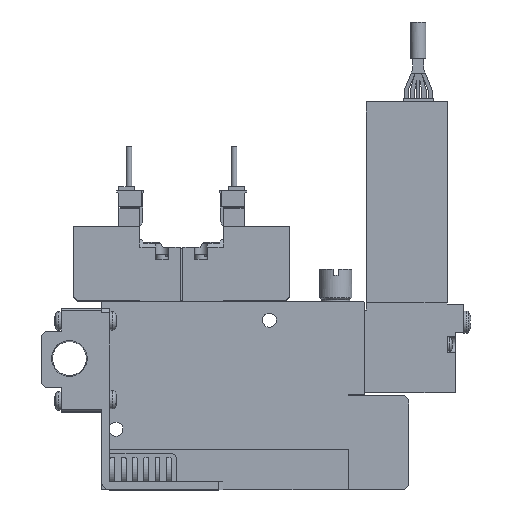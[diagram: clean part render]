
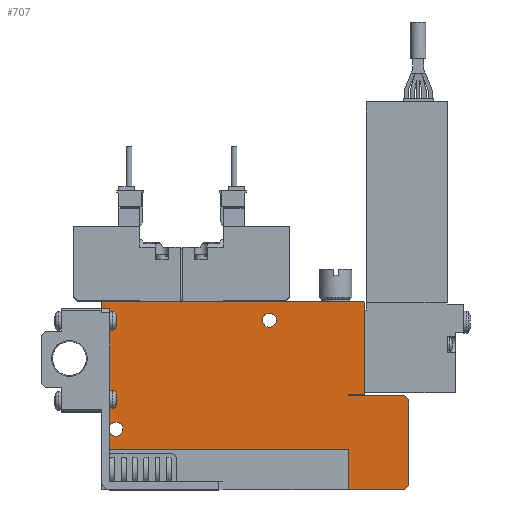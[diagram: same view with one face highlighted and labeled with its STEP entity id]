
A CAD part, top view. The second image highlights one B-rep face of the part: STEP entity #707.
In plain terms, the highlighted planar face has unit normal (0, 0, 1).
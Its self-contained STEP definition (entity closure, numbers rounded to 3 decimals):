
#707=ADVANCED_FACE('',(#1755,#1756,#1757),#1758,.F.);
#1755=FACE_OUTER_BOUND('',#3083,.T.);
#1756=FACE_BOUND('',#3084,.T.);
#1757=FACE_BOUND('',#3085,.T.);
#1758=PLANE('',#3086);
#3083=EDGE_LOOP('',(#6785,#6786,#6787,#6788,#6789,#6790,#6791,#6792,#6793,#6794,#6795,#6796,#6797,#6798));
#3084=EDGE_LOOP('',(#6799));
#3085=EDGE_LOOP('',(#6800));
#3086=AXIS2_PLACEMENT_3D('',#6801,#6802,#6803);
#6785=ORIENTED_EDGE('',*,*,#9646,.T.);
#6786=ORIENTED_EDGE('',*,*,#9631,.F.);
#6787=ORIENTED_EDGE('',*,*,#9647,.F.);
#6788=ORIENTED_EDGE('',*,*,#9582,.T.);
#6789=ORIENTED_EDGE('',*,*,#9648,.T.);
#6790=ORIENTED_EDGE('',*,*,#9649,.T.);
#6791=ORIENTED_EDGE('',*,*,#9650,.T.);
#6792=ORIENTED_EDGE('',*,*,#9651,.T.);
#6793=ORIENTED_EDGE('',*,*,#9527,.T.);
#6794=ORIENTED_EDGE('',*,*,#9652,.T.);
#6795=ORIENTED_EDGE('',*,*,#9653,.T.);
#6796=ORIENTED_EDGE('',*,*,#9591,.T.);
#6797=ORIENTED_EDGE('',*,*,#9563,.T.);
#6798=ORIENTED_EDGE('',*,*,#9654,.T.);
#6799=ORIENTED_EDGE('',*,*,#9525,.F.);
#6800=ORIENTED_EDGE('',*,*,#9655,.F.);
#6801=CARTESIAN_POINT('',(0.0,0.0,5.0));
#6802=DIRECTION('',(0.0,0.0,-1.0));
#6803=DIRECTION('',(0.0,-1.0,0.0));
#9525=EDGE_CURVE('',#11792,#11792,#11793,.T.);
#9527=EDGE_CURVE('',#11796,#11794,#11797,.T.);
#9563=EDGE_CURVE('',#11862,#11860,#11863,.T.);
#9582=EDGE_CURVE('',#11893,#11895,#11897,.T.);
#9591=EDGE_CURVE('',#11911,#11862,#11912,.T.);
#9631=EDGE_CURVE('',#11976,#11977,#11978,.T.);
#9646=EDGE_CURVE('',#12002,#11977,#12003,.T.);
#9647=EDGE_CURVE('',#11893,#11976,#12004,.T.);
#9648=EDGE_CURVE('',#11895,#12005,#12006,.T.);
#9649=EDGE_CURVE('',#12005,#12007,#12008,.T.);
#9650=EDGE_CURVE('',#12007,#12009,#12010,.T.);
#9651=EDGE_CURVE('',#12009,#11796,#12011,.T.);
#9652=EDGE_CURVE('',#11794,#12012,#12013,.T.);
#9653=EDGE_CURVE('',#12012,#11911,#12014,.T.);
#9654=EDGE_CURVE('',#11860,#12002,#12015,.T.);
#9655=EDGE_CURVE('',#12016,#12016,#12017,.T.);
#11792=VERTEX_POINT('',#15482);
#11793=CIRCLE('',#15483,1.75);
#11794=VERTEX_POINT('',#15484);
#11796=VERTEX_POINT('',#15487);
#11797=LINE('',#15488,#15489);
#11860=VERTEX_POINT('',#15619);
#11862=VERTEX_POINT('',#15622);
#11863=LINE('',#15623,#15624);
#11893=VERTEX_POINT('',#15683);
#11895=VERTEX_POINT('',#15686);
#11897=LINE('',#15689,#15690);
#11911=VERTEX_POINT('',#15710);
#11912=LINE('',#15711,#15712);
#11976=VERTEX_POINT('',#15805);
#11977=VERTEX_POINT('',#15806);
#11978=LINE('',#15807,#15808);
#12002=VERTEX_POINT('',#15843);
#12003=LINE('',#15844,#15845);
#12004=LINE('',#15846,#15847);
#12005=VERTEX_POINT('',#15848);
#12006=LINE('',#15849,#15850);
#12007=VERTEX_POINT('',#15851);
#12008=LINE('',#15852,#15853);
#12009=VERTEX_POINT('',#15854);
#12010=LINE('',#15855,#15856);
#12011=LINE('',#15857,#15858);
#12012=VERTEX_POINT('',#15859);
#12013=LINE('',#15860,#15861);
#12014=LINE('',#15862,#15863);
#12015=LINE('',#15864,#15865);
#12016=VERTEX_POINT('',#15866);
#12017=CIRCLE('',#15867,1.75);
#15482=CARTESIAN_POINT('',(5.25,15.0,5.0));
#15483=AXIS2_PLACEMENT_3D('',#18618,#18619,#18620);
#15484=CARTESIAN_POINT('',(61.0,23.5,5.0));
#15487=CARTESIAN_POINT('',(61.0,23.25,5.0));
#15488=CARTESIAN_POINT('',(61.0,23.25,5.0));
#15489=VECTOR('',#18622,1.0);
#15619=CARTESIAN_POINT('',(0.2,46.6,5.0));
#15622=CARTESIAN_POINT('',(64.8,46.6,5.0));
#15623=CARTESIAN_POINT('',(64.8,46.6,5.0));
#15624=VECTOR('',#18671,1.0);
#15683=CARTESIAN_POINT('',(61.1,0.0,5.0));
#15686=CARTESIAN_POINT('',(75.0,0.0,5.0));
#15689=CARTESIAN_POINT('',(0.0,0.0,5.0));
#15690=VECTOR('',#18696,1.0);
#15710=CARTESIAN_POINT('',(65.0,46.4,5.0));
#15711=CARTESIAN_POINT('',(65.0,46.4,5.0));
#15712=VECTOR('',#18709,1.0);
#15805=CARTESIAN_POINT('',(61.1,10.1,5.0));
#15806=CARTESIAN_POINT('',(0.0,10.1,5.0));
#15807=CARTESIAN_POINT('',(61.1,10.1,5.0));
#15808=VECTOR('',#18769,1.0);
#15843=CARTESIAN_POINT('',(0.0,46.4,5.0));
#15844=CARTESIAN_POINT('',(0.0,46.4,5.0));
#15845=VECTOR('',#18790,1.0);
#15846=CARTESIAN_POINT('',(61.1,0.0,5.0));
#15847=VECTOR('',#18791,1.0);
#15848=CARTESIAN_POINT('',(76.0,1.0,5.0));
#15849=CARTESIAN_POINT('',(75.0,0.0,5.0));
#15850=VECTOR('',#18792,1.0);
#15851=CARTESIAN_POINT('',(76.0,22.25,5.0));
#15852=CARTESIAN_POINT('',(76.0,1.0,5.0));
#15853=VECTOR('',#18793,1.0);
#15854=CARTESIAN_POINT('',(75.0,23.25,5.0));
#15855=CARTESIAN_POINT('',(76.0,22.25,5.0));
#15856=VECTOR('',#18794,1.0);
#15857=CARTESIAN_POINT('',(75.0,23.25,5.0));
#15858=VECTOR('',#18795,1.0);
#15859=CARTESIAN_POINT('',(65.0,23.5,5.0));
#15860=CARTESIAN_POINT('',(61.0,23.5,5.0));
#15861=VECTOR('',#18796,1.0);
#15862=CARTESIAN_POINT('',(65.0,23.5,5.0));
#15863=VECTOR('',#18797,1.0);
#15864=CARTESIAN_POINT('',(0.2,46.6,5.0));
#15865=VECTOR('',#18798,1.0);
#15866=CARTESIAN_POINT('',(43.25,42.0,5.0));
#15867=AXIS2_PLACEMENT_3D('',#18799,#18800,#18801);
#18618=CARTESIAN_POINT('',(3.5,15.0,5.0));
#18619=DIRECTION('',(0.0,0.0,1.0));
#18620=DIRECTION('',(1.0,0.0,0.0));
#18622=DIRECTION('',(0.0,1.0,0.0));
#18671=DIRECTION('',(-1.0,0.0,0.0));
#18696=DIRECTION('',(1.0,0.0,0.0));
#18709=DIRECTION('',(-0.707,0.707,0.0));
#18769=DIRECTION('',(-1.0,0.0,0.0));
#18790=DIRECTION('',(0.0,-1.0,0.0));
#18791=DIRECTION('',(0.0,1.0,0.0));
#18792=DIRECTION('',(0.707,0.707,0.0));
#18793=DIRECTION('',(0.0,1.0,0.0));
#18794=DIRECTION('',(-0.707,0.707,0.0));
#18795=DIRECTION('',(-1.0,0.0,0.0));
#18796=DIRECTION('',(1.0,0.,0.0));
#18797=DIRECTION('',(0.0,1.0,0.0));
#18798=DIRECTION('',(-0.707,-0.707,0.0));
#18799=CARTESIAN_POINT('',(41.5,42.0,5.0));
#18800=DIRECTION('',(0.0,0.0,1.0));
#18801=DIRECTION('',(1.0,0.0,0.0));
